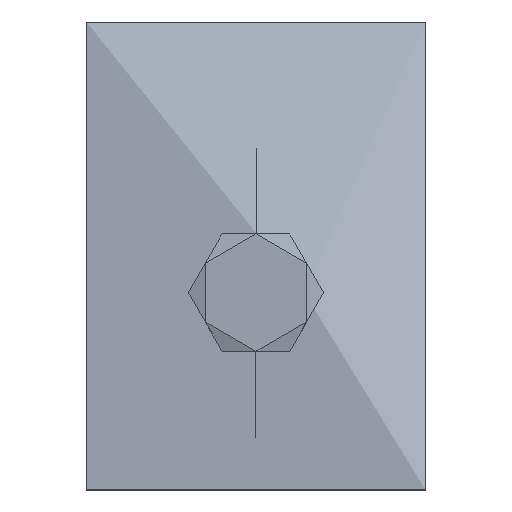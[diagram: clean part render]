
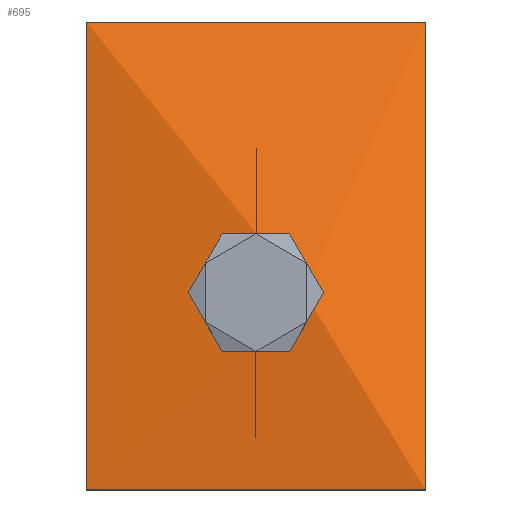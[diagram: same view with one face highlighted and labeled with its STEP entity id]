
A CAD part, top view. The second image highlights one B-rep face of the part: STEP entity #695.
In plain terms, the highlighted free-form (B-spline) face has degree [1, 2] with [2, 7] control points.
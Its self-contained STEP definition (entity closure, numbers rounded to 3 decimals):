
#52=(
BOUNDED_SURFACE()
B_SPLINE_SURFACE(1,2,((#8095,#8096,#8097,#8098,#8099,#8100,#8101),(#8102,
#8103,#8104,#8105,#8106,#8107,#8108)),.UNSPECIFIED.,.F.,.F.,.F.)
B_SPLINE_SURFACE_WITH_KNOTS((2,2),(3,2,2,3),(0.,42.),(74.,125.,128.142,
141.142),.UNSPECIFIED.)
GEOMETRIC_REPRESENTATION_ITEM()
RATIONAL_B_SPLINE_SURFACE(((1.,1.,1.,0.707,1.,1.,1.),(1.,1.,
1.,0.707,1.,1.,1.)))
REPRESENTATION_ITEM($)
SURFACE()
);
#161=B_SPLINE_CURVE_WITH_KNOTS($,1,(#8075,#8076),.UNSPECIFIED.,.F.,.F.,(2,
2),(0.,42.),.UNSPECIFIED.);
#162=B_SPLINE_CURVE_WITH_KNOTS($,1,(#8084,#8085),.UNSPECIFIED.,.F.,.F.,(2,
2),(0.,42.),.UNSPECIFIED.);
#695=ADVANCED_FACE($,(#759,#706),#52,.T.);
#706=FACE_BOUND($,#822,.T.);
#759=FACE_OUTER_BOUND($,#821,.T.);
#821=EDGE_LOOP($,(#1028,#1029,#1030,#1031));
#822=EDGE_LOOP($,(#1032));
#1028=ORIENTED_EDGE($,*,*,#1232,.T.);
#1029=ORIENTED_EDGE($,*,*,#1231,.F.);
#1030=ORIENTED_EDGE($,*,*,#1230,.F.);
#1031=ORIENTED_EDGE($,*,*,#1229,.T.);
#1032=ORIENTED_EDGE($,*,*,#1233,.F.);
#1229=EDGE_CURVE($,#1407,#1409,#1524,.T.);
#1230=EDGE_CURVE($,#1407,#1408,#161,.T.);
#1231=EDGE_CURVE($,#1408,#1410,#1525,.T.);
#1232=EDGE_CURVE($,#1409,#1410,#162,.T.);
#1233=EDGE_CURVE($,#1411,#1411,#1526,.T.);
#1407=VERTEX_POINT($,#8109);
#1408=VERTEX_POINT($,#8110);
#1409=VERTEX_POINT($,#8111);
#1410=VERTEX_POINT($,#8112);
#1411=VERTEX_POINT($,#8113);
#1524=(
BOUNDED_CURVE()
B_SPLINE_CURVE(2,(#8068,#8069,#8070,#8071,#8072,#8073,#8074),.UNSPECIFIED.,
.F.,.F.)
B_SPLINE_CURVE_WITH_KNOTS((3,2,2,3),(-141.142,-128.142,-125.,
-74.),.UNSPECIFIED.)
CURVE()
GEOMETRIC_REPRESENTATION_ITEM()
RATIONAL_B_SPLINE_CURVE((1.,1.,1.,0.707,1.,1.,1.))
REPRESENTATION_ITEM($)
);
#1525=(
BOUNDED_CURVE()
B_SPLINE_CURVE(2,(#8077,#8078,#8079,#8080,#8081,#8082,#8083),.UNSPECIFIED.,
.F.,.F.)
B_SPLINE_CURVE_WITH_KNOTS((3,2,2,3),(-141.142,-128.142,-125.,
-74.),.UNSPECIFIED.)
CURVE()
GEOMETRIC_REPRESENTATION_ITEM()
RATIONAL_B_SPLINE_CURVE((1.,1.,1.,0.707,1.,1.,1.))
REPRESENTATION_ITEM($)
);
#1526=(
BOUNDED_CURVE()
B_SPLINE_CURVE(2,(#8086,#8087,#8088,#8089,#8090,#8091,#8092,#8093,#8094),
.UNSPECIFIED.,.T.,.F.)
B_SPLINE_CURVE_WITH_KNOTS((3,2,2,2,3),(-37.695,-28.272,
-18.848,-9.424,0.),.UNSPECIFIED.)
CURVE()
GEOMETRIC_REPRESENTATION_ITEM()
RATIONAL_B_SPLINE_CURVE((1.,0.707,1.,0.707,1.,0.707,
1.,0.707,1.))
REPRESENTATION_ITEM($)
);
#8068=CARTESIAN_POINT($,(-21.,33.6,-4.));
#8069=CARTESIAN_POINT($,(-21.,33.6,2.5));
#8070=CARTESIAN_POINT($,(-21.,33.6,9.));
#8071=CARTESIAN_POINT($,(-21.,33.6,16.));
#8072=CARTESIAN_POINT($,(-21.,26.6,16.));
#8073=CARTESIAN_POINT($,(-21.,1.1,16.));
#8074=CARTESIAN_POINT($,(-21.,-24.4,16.));
#8075=CARTESIAN_POINT($,(-21.,33.6,-4.));
#8076=CARTESIAN_POINT($,(21.,33.6,-4.));
#8077=CARTESIAN_POINT($,(21.,33.6,-4.));
#8078=CARTESIAN_POINT($,(21.,33.6,2.5));
#8079=CARTESIAN_POINT($,(21.,33.6,9.));
#8080=CARTESIAN_POINT($,(21.,33.6,16.));
#8081=CARTESIAN_POINT($,(21.,26.6,16.));
#8082=CARTESIAN_POINT($,(21.,1.1,16.));
#8083=CARTESIAN_POINT($,(21.,-24.4,16.));
#8084=CARTESIAN_POINT($,(-21.,-24.4,16.));
#8085=CARTESIAN_POINT($,(21.,-24.4,16.));
#8086=CARTESIAN_POINT($,(6.,0.,16.));
#8087=CARTESIAN_POINT($,(6.,6.,16.));
#8088=CARTESIAN_POINT($,(0.,6.,16.));
#8089=CARTESIAN_POINT($,(-6.,6.,16.));
#8090=CARTESIAN_POINT($,(-6.,0.,16.));
#8091=CARTESIAN_POINT($,(-6.,-6.,16.));
#8092=CARTESIAN_POINT($,(0.,-6.,16.));
#8093=CARTESIAN_POINT($,(6.,-6.,16.));
#8094=CARTESIAN_POINT($,(6.,0.,16.));
#8095=CARTESIAN_POINT($,(-21.,-24.4,16.));
#8096=CARTESIAN_POINT($,(-21.,1.1,16.));
#8097=CARTESIAN_POINT($,(-21.,26.6,16.));
#8098=CARTESIAN_POINT($,(-21.,33.6,16.));
#8099=CARTESIAN_POINT($,(-21.,33.6,9.));
#8100=CARTESIAN_POINT($,(-21.,33.6,2.5));
#8101=CARTESIAN_POINT($,(-21.,33.6,-4.));
#8102=CARTESIAN_POINT($,(21.,-24.4,16.));
#8103=CARTESIAN_POINT($,(21.,1.1,16.));
#8104=CARTESIAN_POINT($,(21.,26.6,16.));
#8105=CARTESIAN_POINT($,(21.,33.6,16.));
#8106=CARTESIAN_POINT($,(21.,33.6,9.));
#8107=CARTESIAN_POINT($,(21.,33.6,2.5));
#8108=CARTESIAN_POINT($,(21.,33.6,-4.));
#8109=CARTESIAN_POINT($,(-21.,33.6,-4.));
#8110=CARTESIAN_POINT($,(21.,33.6,-4.));
#8111=CARTESIAN_POINT($,(-21.,-24.4,16.));
#8112=CARTESIAN_POINT($,(21.,-24.4,16.));
#8113=CARTESIAN_POINT($,(6.,0.,16.));
